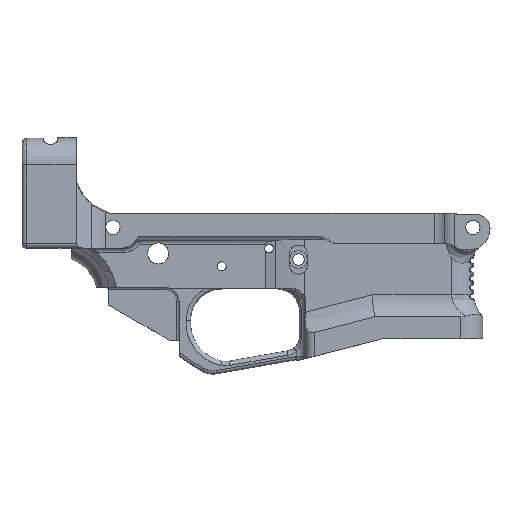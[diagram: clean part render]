
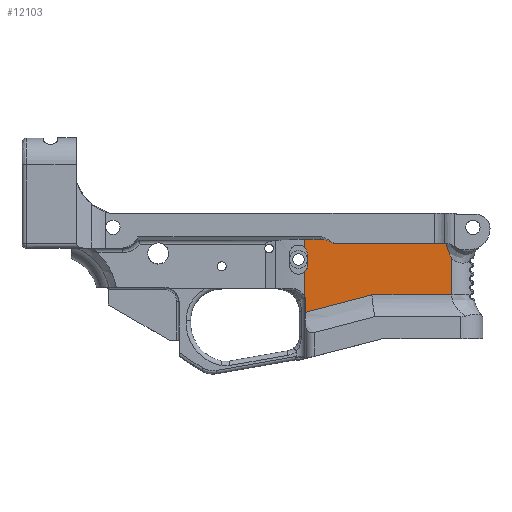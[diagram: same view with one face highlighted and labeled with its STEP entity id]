
A CAD part, left-side view. The second image highlights one B-rep face of the part: STEP entity #12103.
In plain terms, the highlighted planar face has unit normal (-1, 0, 0) as drawn and (1, 0, 0) by its records, which use the part's own axes.
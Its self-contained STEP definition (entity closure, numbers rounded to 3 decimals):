
#345=PLANE('',#12965);
#667=CIRCLE('',#12966,8.);
#668=CIRCLE('',#12967,4.039);
#669=CIRCLE('',#12968,4.039);
#670=CIRCLE('',#12969,6.985);
#1155=FACE_OUTER_BOUND('',#1844,.T.);
#1844=EDGE_LOOP('',(#9621,#9622,#9623,#9624,#9625,#9626,#9627,#9628,#9629,
#9630,#9631,#9632,#9633,#9634,#9635,#9636));
#2610=B_SPLINE_CURVE_WITH_KNOTS('',3,(#25070,#25071,#25072,#25073,#25074,
#25075,#25076,#25077),.UNSPECIFIED.,.F.,.F.,(4,2,2,4),(-0.003,
0.,0.488,0.727),.UNSPECIFIED.);
#2623=B_SPLINE_CURVE_WITH_KNOTS('',3,(#25408,#25409,#25410,#25411),
 .UNSPECIFIED.,.F.,.F.,(4,4),(-3.086,0.001),
 .UNSPECIFIED.);
#2674=B_SPLINE_CURVE_WITH_KNOTS('',3,(#26579,#26580,#26581,#26582,#26583,
#26584),.UNSPECIFIED.,.F.,.F.,(4,2,4),(0.,0.191,0.403),
 .UNSPECIFIED.);
#2677=B_SPLINE_CURVE_WITH_KNOTS('',3,(#26653,#26654,#26655,#26656,#26657,
#26658,#26659),.UNSPECIFIED.,.F.,.F.,(4,3,4),(-0.219,-0.156,
0.),.UNSPECIFIED.);
#3295=LINE('',#23231,#4077);
#3299=LINE('',#23255,#4081);
#3301=LINE('',#23300,#4083);
#3323=LINE('',#23952,#4105);
#3378=LINE('',#25337,#4160);
#3479=LINE('',#26715,#4261);
#3481=LINE('',#26720,#4263);
#3482=LINE('',#26724,#4264);
#4077=VECTOR('',#14231,10.);
#4081=VECTOR('',#14239,67.);
#4083=VECTOR('',#14243,67.);
#4105=VECTOR('',#14331,10.);
#4160=VECTOR('',#14558,10.);
#4261=VECTOR('',#14971,10.);
#4263=VECTOR('',#14977,10.);
#4264=VECTOR('',#14980,10.);
#5042=VERTEX_POINT('',#23228);
#5043=VERTEX_POINT('',#23230);
#5048=VERTEX_POINT('',#23245);
#5049=VERTEX_POINT('',#23254);
#5055=VERTEX_POINT('',#23285);
#5114=VERTEX_POINT('',#23937);
#5115=VERTEX_POINT('',#23951);
#5162=VERTEX_POINT('',#25065);
#5205=VERTEX_POINT('',#25315);
#5206=VERTEX_POINT('',#25336);
#5209=VERTEX_POINT('',#25367);
#5359=VERTEX_POINT('',#26563);
#5363=VERTEX_POINT('',#26652);
#5366=VERTEX_POINT('',#26718);
#5367=VERTEX_POINT('',#26721);
#5368=VERTEX_POINT('',#26723);
#6451=EDGE_CURVE('',#5043,#5042,#3295,.T.);
#6458=EDGE_CURVE('',#5048,#5049,#3299,.T.);
#6465=EDGE_CURVE('',#5055,#5042,#3301,.T.);
#6544=EDGE_CURVE('',#5114,#5115,#3323,.T.);
#6636=EDGE_CURVE('',#5114,#5162,#2610,.T.);
#6695=EDGE_CURVE('',#5205,#5206,#3378,.F.);
#6701=EDGE_CURVE('',#5209,#5205,#2623,.T.);
#6938=EDGE_CURVE('',#5359,#5043,#2674,.T.);
#6942=EDGE_CURVE('',#5359,#5363,#2677,.T.);
#6949=EDGE_CURVE('',#5115,#5209,#3479,.T.);
#6951=EDGE_CURVE('',#5366,#5162,#667,.T.);
#6952=EDGE_CURVE('',#5363,#5366,#3481,.T.);
#6953=EDGE_CURVE('',#5055,#5367,#668,.T.);
#6954=EDGE_CURVE('',#5367,#5368,#3482,.T.);
#6955=EDGE_CURVE('',#5368,#5049,#669,.T.);
#6956=EDGE_CURVE('',#5048,#5206,#670,.T.);
#9621=ORIENTED_EDGE('',*,*,#6636,.T.);
#9622=ORIENTED_EDGE('',*,*,#6951,.F.);
#9623=ORIENTED_EDGE('',*,*,#6952,.F.);
#9624=ORIENTED_EDGE('',*,*,#6942,.F.);
#9625=ORIENTED_EDGE('',*,*,#6938,.T.);
#9626=ORIENTED_EDGE('',*,*,#6451,.T.);
#9627=ORIENTED_EDGE('',*,*,#6465,.F.);
#9628=ORIENTED_EDGE('',*,*,#6953,.T.);
#9629=ORIENTED_EDGE('',*,*,#6954,.T.);
#9630=ORIENTED_EDGE('',*,*,#6955,.T.);
#9631=ORIENTED_EDGE('',*,*,#6458,.F.);
#9632=ORIENTED_EDGE('',*,*,#6956,.T.);
#9633=ORIENTED_EDGE('',*,*,#6695,.F.);
#9634=ORIENTED_EDGE('',*,*,#6701,.F.);
#9635=ORIENTED_EDGE('',*,*,#6949,.F.);
#9636=ORIENTED_EDGE('',*,*,#6544,.F.);
#12103=ADVANCED_FACE('',(#1155),#345,.T.);
#12965=AXIS2_PLACEMENT_3D('',#26717,#14973,#14974);
#12966=AXIS2_PLACEMENT_3D('',#26719,#14975,#14976);
#12967=AXIS2_PLACEMENT_3D('',#26722,#14978,#14979);
#12968=AXIS2_PLACEMENT_3D('',#26725,#14981,#14982);
#12969=AXIS2_PLACEMENT_3D('',#26726,#14983,#14984);
#14231=DIRECTION('',(0.,-1.,0.));
#14239=DIRECTION('',(0.,0.,1.));
#14243=DIRECTION('',(0.,0.,1.));
#14331=DIRECTION('',(0.,0.,-1.));
#14558=DIRECTION('',(0.,0.,-1.));
#14971=DIRECTION('',(0.,-1.,0.));
#14973=DIRECTION('center_axis',(1.,0.,0.));
#14974=DIRECTION('ref_axis',(0.,1.,0.));
#14975=DIRECTION('center_axis',(-1.,0.,0.));
#14976=DIRECTION('ref_axis',(0.,0.995,-0.105));
#14977=DIRECTION('',(0.,1.,0.));
#14978=DIRECTION('center_axis',(-1.,0.,0.));
#14979=DIRECTION('ref_axis',(0.,1.,0.));
#14980=DIRECTION('',(0.,0.,-1.));
#14981=DIRECTION('center_axis',(-1.,0.,0.));
#14982=DIRECTION('ref_axis',(0.,-1.,0.));
#14983=DIRECTION('center_axis',(-1.,0.,0.));
#14984=DIRECTION('ref_axis',(0.,0.707,0.707));
#23228=CARTESIAN_POINT('',(37.482,-2.351,9.687));
#23230=CARTESIAN_POINT('',(37.482,5.582,9.687));
#23231=CARTESIAN_POINT('',(37.482,-32.572,9.687));
#23245=CARTESIAN_POINT('',(37.482,-2.345,-16.101));
#23254=CARTESIAN_POINT('',(37.482,-2.348,-4.838));
#23255=CARTESIAN_POINT('',(37.482,-2.35,3.515));
#23285=CARTESIAN_POINT('',(37.482,-2.35,6.009));
#23300=CARTESIAN_POINT('',(37.482,-2.35,3.515));
#23937=CARTESIAN_POINT('',(37.482,63.767,1.06));
#23951=CARTESIAN_POINT('',(37.482,63.767,-15.301));
#23952=CARTESIAN_POINT('',(37.482,63.767,11.203));
#25065=CARTESIAN_POINT('',(37.482,61.267,7.958));
#25070=CARTESIAN_POINT('Ctrl Pts',(37.482,63.767,1.06));
#25071=CARTESIAN_POINT('Ctrl Pts',(37.482,63.763,1.068));
#25072=CARTESIAN_POINT('Ctrl Pts',(37.482,63.759,1.076));
#25073=CARTESIAN_POINT('Ctrl Pts',(37.482,62.992,2.521));
#25074=CARTESIAN_POINT('Ctrl Pts',(37.482,62.374,4.101));
#25075=CARTESIAN_POINT('Ctrl Pts',(37.482,61.66,6.398));
#25076=CARTESIAN_POINT('Ctrl Pts',(37.482,61.449,7.174));
#25077=CARTESIAN_POINT('Ctrl Pts',(37.482,61.267,7.958));
#25315=CARTESIAN_POINT('',(37.482,-2.04,-23.108));
#25336=CARTESIAN_POINT('',(37.482,-2.04,-16.772));
#25337=CARTESIAN_POINT('',(37.482,-2.04,-5.265));
#25367=CARTESIAN_POINT('',(37.482,27.82,-15.301));
#25408=CARTESIAN_POINT('Ctrl Pts',(37.482,27.82,-15.301));
#25409=CARTESIAN_POINT('Ctrl Pts',(37.482,17.867,-17.903));
#25410=CARTESIAN_POINT('Ctrl Pts',(37.482,7.913,-20.505));
#25411=CARTESIAN_POINT('Ctrl Pts',(37.482,-2.04,-23.108));
#26563=CARTESIAN_POINT('',(37.482,9.399,8.576));
#26579=CARTESIAN_POINT('Ctrl Pts',(37.482,9.399,8.576));
#26580=CARTESIAN_POINT('Ctrl Pts',(37.482,8.855,8.906));
#26581=CARTESIAN_POINT('Ctrl Pts',(37.482,8.274,9.173));
#26582=CARTESIAN_POINT('Ctrl Pts',(37.482,6.992,9.573));
#26583=CARTESIAN_POINT('Ctrl Pts',(37.482,6.289,9.687));
#26584=CARTESIAN_POINT('Ctrl Pts',(37.482,5.582,9.687));
#26652=CARTESIAN_POINT('',(37.482,11.477,7.994));
#26653=CARTESIAN_POINT('Ctrl Pts',(37.482,9.399,8.576));
#26654=CARTESIAN_POINT('Ctrl Pts',(37.482,9.577,8.468));
#26655=CARTESIAN_POINT('Ctrl Pts',(37.482,9.764,8.373));
#26656=CARTESIAN_POINT('Ctrl Pts',(37.482,9.958,8.293));
#26657=CARTESIAN_POINT('Ctrl Pts',(37.482,10.44,8.096));
#26658=CARTESIAN_POINT('Ctrl Pts',(37.482,10.956,7.994));
#26659=CARTESIAN_POINT('Ctrl Pts',(37.482,11.477,7.994));
#26715=CARTESIAN_POINT('',(37.482,54.452,-15.301));
#26717=CARTESIAN_POINT('Origin',(37.482,-15.717,2.299));
#26718=CARTESIAN_POINT('',(37.482,60.51,7.994));
#26719=CARTESIAN_POINT('Origin',(37.482,60.51,-0.006));
#26720=CARTESIAN_POINT('',(37.482,6.871,7.994));
#26721=CARTESIAN_POINT('',(37.482,-1.099,3.086));
#26722=CARTESIAN_POINT('Origin',(37.482,-5.137,3.086));
#26723=CARTESIAN_POINT('',(37.482,-1.099,-1.918));
#26724=CARTESIAN_POINT('',(37.482,-1.099,0.191));
#26725=CARTESIAN_POINT('Origin',(37.482,-5.137,-1.918));
#26726=CARTESIAN_POINT('Origin',(37.482,-8.541,-19.326));
